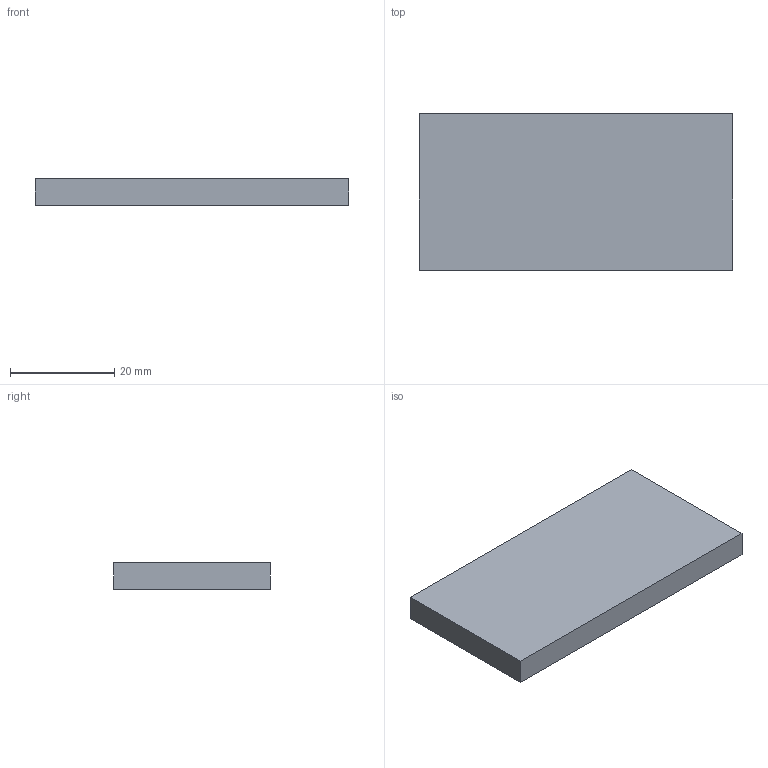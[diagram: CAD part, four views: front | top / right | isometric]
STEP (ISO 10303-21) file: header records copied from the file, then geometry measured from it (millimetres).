
FILE_DESCRIPTION((''),'2;1');
FILE_NAME('C:\Documents and Settings\AMS8\デスクトップ\2013from西村作業用\既存3D\エンドキャップiges\ECP-3060-6.stp','2013-08-06T13:45:54',('AMS8'),(''),'Autodesk Inventor 2008','Autodesk Inventor 2008','');
FILE_SCHEMA(('AUTOMOTIVE_DESIGN { 1 0 10303 214 1 1 1 1 }'));
Length unit declared in the file: millimetre
Products named in the file (1): ECP-3060-6
Bounding box: 60 x 30 x 5 mm (x, y, z)
Volume: 9000 mm3; surface area: 4500 mm2
Topology: 1 solids, 1 shells, 6 faces, 12 edges, 8 vertices
Faces by surface type: plane 6
Entity records: 182 total; most frequent: CARTESIAN_POINT 27, DIRECTION 26, ORIENTED_EDGE 24, VECTOR 12, LINE 12, EDGE_CURVE 12, VERTEX_POINT 8, AXIS2_PLACEMENT_3D 7
